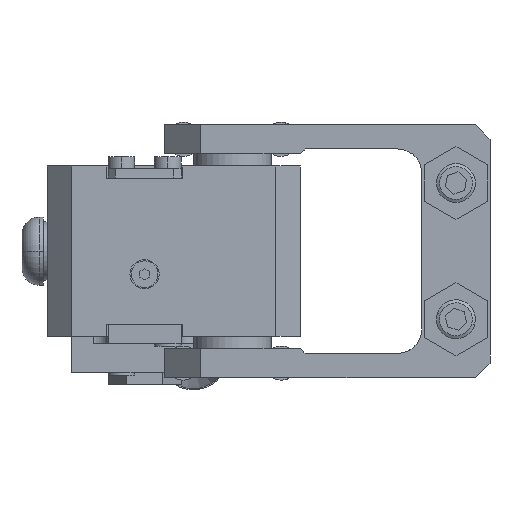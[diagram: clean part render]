
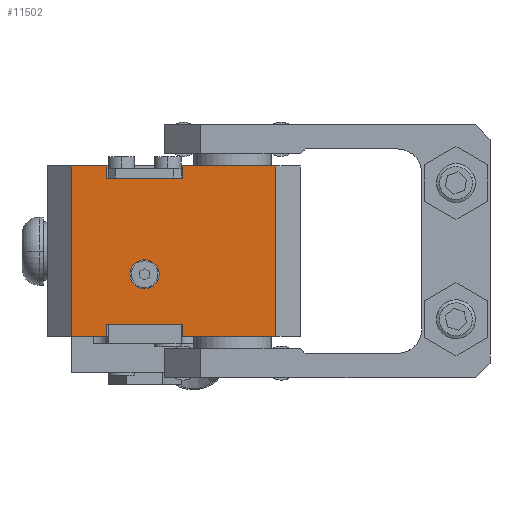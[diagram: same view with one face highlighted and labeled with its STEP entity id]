
A CAD part, left-side view. The second image highlights one B-rep face of the part: STEP entity #11502.
In plain terms, the highlighted planar face has unit normal (-1, 0, 0).
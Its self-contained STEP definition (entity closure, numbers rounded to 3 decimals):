
#56 = LINE ( 'NONE', #16890, #14596 ) ;
#626 = CARTESIAN_POINT ( 'NONE',  ( -28., 33., 17.5 ) ) ;
#664 = AXIS2_PLACEMENT_3D ( 'NONE', #12130, #10435, #8640 ) ;
#962 = ORIENTED_EDGE ( 'NONE', *, *, #12681, .T. ) ;
#995 = LINE ( 'NONE', #16637, #9393 ) ;
#1125 = DIRECTION ( 'NONE',  ( 0., 0., -1. ) ) ;
#1153 = CARTESIAN_POINT ( 'NONE',  ( -28., -9., 17.5 ) ) ;
#1247 = LINE ( 'NONE', #1153, #7159 ) ;
#1299 = VECTOR ( 'NONE', #16341, 1000. ) ;
#1517 = CARTESIAN_POINT ( 'NONE',  ( -28., 15., -4.75 ) ) ;
#1969 = EDGE_CURVE ( 'NONE', #3185, #3165, #3821, .T. ) ;
#2626 = LINE ( 'NONE', #626, #1299 ) ;
#2827 = ORIENTED_EDGE ( 'NONE', *, *, #14094, .F. ) ;
#2842 = ORIENTED_EDGE ( 'NONE', *, *, #3074, .F. ) ;
#3074 = EDGE_CURVE ( 'NONE', #5538, #6366, #7440, .T. ) ;
#3165 = VERTEX_POINT ( 'NONE', #5985 ) ;
#3185 = VERTEX_POINT ( 'NONE', #5856 ) ;
#3483 = VERTEX_POINT ( 'NONE', #1517 ) ;
#3499 = ORIENTED_EDGE ( 'NONE', *, *, #8835, .T. ) ;
#3614 = VERTEX_POINT ( 'NONE', #7275 ) ;
#3774 = DIRECTION ( 'NONE',  ( 0., -1., 0. ) ) ;
#3793 = CARTESIAN_POINT ( 'NONE',  ( -28., 33., -17.5 ) ) ;
#3821 = LINE ( 'NONE', #3793, #14295 ) ;
#4106 = DIRECTION ( 'NONE',  ( 0., 0., 1. ) ) ;
#4132 = ORIENTED_EDGE ( 'NONE', *, *, #14447, .T. ) ;
#4384 = ORIENTED_EDGE ( 'NONE', *, *, #14340, .F. ) ;
#4501 = VECTOR ( 'NONE', #4106, 1000. ) ;
#4592 = CARTESIAN_POINT ( 'NONE',  ( -28., 33., 17.5 ) ) ;
#4856 = ORIENTED_EDGE ( 'NONE', *, *, #15567, .F. ) ;
#4866 = VERTEX_POINT ( 'NONE', #16444 ) ;
#5017 = VERTEX_POINT ( 'NONE', #7168 ) ;
#5056 = VECTOR ( 'NONE', #7727, 1000. ) ;
#5146 = EDGE_CURVE ( 'NONE', #6366, #4866, #1247, .T. ) ;
#5452 = ORIENTED_EDGE ( 'NONE', *, *, #5146, .F. ) ;
#5538 = VERTEX_POINT ( 'NONE', #15692 ) ;
#5628 = VERTEX_POINT ( 'NONE', #12988 ) ;
#5856 = CARTESIAN_POINT ( 'NONE',  ( -28., 33., -17.5 ) ) ;
#5862 = VERTEX_POINT ( 'NONE', #8024 ) ;
#5925 = VERTEX_POINT ( 'NONE', #7174 ) ;
#5985 = CARTESIAN_POINT ( 'NONE',  ( -28., 25.75, -17.5 ) ) ;
#6015 = VERTEX_POINT ( 'NONE', #4592 ) ;
#6074 = CARTESIAN_POINT ( 'NONE',  ( -28., 25.75, -25. ) ) ;
#6159 = VERTEX_POINT ( 'NONE', #17228 ) ;
#6260 = VERTEX_POINT ( 'NONE', #12725 ) ;
#6366 = VERTEX_POINT ( 'NONE', #10674 ) ;
#6414 = ORIENTED_EDGE ( 'NONE', *, *, #15852, .F. ) ;
#7159 = VECTOR ( 'NONE', #1125, 1000. ) ;
#7168 = CARTESIAN_POINT ( 'NONE',  ( -28., 10.25, -17.5 ) ) ;
#7174 = CARTESIAN_POINT ( 'NONE',  ( -28., 25.75, 17.5 ) ) ;
#7275 = CARTESIAN_POINT ( 'NONE',  ( -28., 21., -4.75 ) ) ;
#7341 = EDGE_CURVE ( 'NONE', #5925, #5862, #9072, .T. ) ;
#7364 = DIRECTION ( 'NONE',  ( 0., -1., 0. ) ) ;
#7378 = CARTESIAN_POINT ( 'NONE',  ( -28., 33., 17.5 ) ) ;
#7414 = DIRECTION ( 'NONE',  ( 0., -1., 0. ) ) ;
#7440 = LINE ( 'NONE', #7378, #16451 ) ;
#7526 = DIRECTION ( 'NONE',  ( 0., 1., 0. ) ) ;
#7727 = DIRECTION ( 'NONE',  ( 0., 0., -1. ) ) ;
#7824 = LINE ( 'NONE', #6074, #4501 ) ;
#7968 = EDGE_CURVE ( 'NONE', #3614, #3483, #12968, .T. ) ;
#8024 = CARTESIAN_POINT ( 'NONE',  ( -28., 25.75, 15. ) ) ;
#8362 = AXIS2_PLACEMENT_3D ( 'NONE', #16386, #16229, #16215 ) ;
#8640 = DIRECTION ( 'NONE',  ( 0., 1., 0. ) ) ;
#8725 = ORIENTED_EDGE ( 'NONE', *, *, #7341, .F. ) ;
#8835 = EDGE_CURVE ( 'NONE', #5538, #5628, #56, .T. ) ;
#9059 = DIRECTION ( 'NONE',  ( 0., 0., -1. ) ) ;
#9063 = CARTESIAN_POINT ( 'NONE',  ( -28., 25.75, 25. ) ) ;
#9072 = LINE ( 'NONE', #9063, #16292 ) ;
#9078 = CARTESIAN_POINT ( 'NONE',  ( -28., 33., -17.5 ) ) ;
#9108 = CIRCLE ( 'NONE', #664, 3. ) ;
#9176 = DIRECTION ( 'NONE',  ( 0., 0., -1. ) ) ;
#9205 = DIRECTION ( 'NONE',  ( 1., 0., 0. ) ) ;
#9393 = VECTOR ( 'NONE', #14947, 1000. ) ;
#9452 = CARTESIAN_POINT ( 'NONE',  ( -28., 33., 17.5 ) ) ;
#10031 = DIRECTION ( 'NONE',  ( 0., -1., 0. ) ) ;
#10418 = VECTOR ( 'NONE', #7414, 1000. ) ;
#10435 = DIRECTION ( 'NONE',  ( -1., 0., 0. ) ) ;
#10480 = AXIS2_PLACEMENT_3D ( 'NONE', #11002, #9205, #7526 ) ;
#10674 = CARTESIAN_POINT ( 'NONE',  ( -28., -9., 17.5 ) ) ;
#10688 = VECTOR ( 'NONE', #13600, 1000. ) ;
#10714 = EDGE_CURVE ( 'NONE', #6015, #3185, #11205, .T. ) ;
#11002 = CARTESIAN_POINT ( 'NONE',  ( -28., 33., 17.5 ) ) ;
#11205 = LINE ( 'NONE', #9452, #5056 ) ;
#11502 = ADVANCED_FACE ( 'NONE', ( #14716, #15139 ), #12646, .F. ) ;
#11760 = CARTESIAN_POINT ( 'NONE',  ( -28., 25.75, 15. ) ) ;
#12130 = CARTESIAN_POINT ( 'NONE',  ( -28., 18., -4.75 ) ) ;
#12538 = LINE ( 'NONE', #9078, #10418 ) ;
#12646 = PLANE ( 'NONE',  #10480 ) ;
#12681 = EDGE_CURVE ( 'NONE', #6159, #6260, #16975, .T. ) ;
#12725 = CARTESIAN_POINT ( 'NONE',  ( -28., 10.25, -15. ) ) ;
#12968 = CIRCLE ( 'NONE', #8362, 3. ) ;
#12988 = CARTESIAN_POINT ( 'NONE',  ( -28., 10.25, 15. ) ) ;
#13060 = ORIENTED_EDGE ( 'NONE', *, *, #1969, .T. ) ;
#13426 = LINE ( 'NONE', #11760, #16575 ) ;
#13600 = DIRECTION ( 'NONE',  ( 0., -1., 0. ) ) ;
#13865 = ORIENTED_EDGE ( 'NONE', *, *, #7968, .F. ) ;
#14094 = EDGE_CURVE ( 'NONE', #6015, #5925, #2626, .T. ) ;
#14120 = EDGE_LOOP ( 'NONE', ( #3499, #4856, #8725, #2827, #16358, #13060, #4132, #962, #4384, #14464, #5452, #2842 ) ) ;
#14197 = EDGE_LOOP ( 'NONE', ( #13865, #6414 ) ) ;
#14295 = VECTOR ( 'NONE', #3774, 1000. ) ;
#14340 = EDGE_CURVE ( 'NONE', #5017, #6260, #995, .T. ) ;
#14447 = EDGE_CURVE ( 'NONE', #3165, #6159, #7824, .T. ) ;
#14464 = ORIENTED_EDGE ( 'NONE', *, *, #15202, .T. ) ;
#14596 = VECTOR ( 'NONE', #9176, 1000. ) ;
#14716 = FACE_OUTER_BOUND ( 'NONE', #14120, .T. ) ;
#14947 = DIRECTION ( 'NONE',  ( 0., 0., 1. ) ) ;
#15139 = FACE_BOUND ( 'NONE', #14197, .T. ) ;
#15202 = EDGE_CURVE ( 'NONE', #5017, #4866, #12538, .T. ) ;
#15287 = CARTESIAN_POINT ( 'NONE',  ( -28., 25.75, -15. ) ) ;
#15567 = EDGE_CURVE ( 'NONE', #5862, #5628, #13426, .T. ) ;
#15692 = CARTESIAN_POINT ( 'NONE',  ( -28., 10.25, 17.5 ) ) ;
#15852 = EDGE_CURVE ( 'NONE', #3483, #3614, #9108, .T. ) ;
#16215 = DIRECTION ( 'NONE',  ( 0., 1., 0. ) ) ;
#16229 = DIRECTION ( 'NONE',  ( -1., 0., 0. ) ) ;
#16292 = VECTOR ( 'NONE', #9059, 1000. ) ;
#16341 = DIRECTION ( 'NONE',  ( 0., -1., 0. ) ) ;
#16358 = ORIENTED_EDGE ( 'NONE', *, *, #10714, .T. ) ;
#16386 = CARTESIAN_POINT ( 'NONE',  ( -28., 18., -4.75 ) ) ;
#16444 = CARTESIAN_POINT ( 'NONE',  ( -28., -9., -17.5 ) ) ;
#16451 = VECTOR ( 'NONE', #7364, 1000. ) ;
#16575 = VECTOR ( 'NONE', #10031, 1000. ) ;
#16637 = CARTESIAN_POINT ( 'NONE',  ( -28., 10.25, -25. ) ) ;
#16890 = CARTESIAN_POINT ( 'NONE',  ( -28., 10.25, 25. ) ) ;
#16975 = LINE ( 'NONE', #15287, #10688 ) ;
#17228 = CARTESIAN_POINT ( 'NONE',  ( -28., 25.75, -15. ) ) ;
